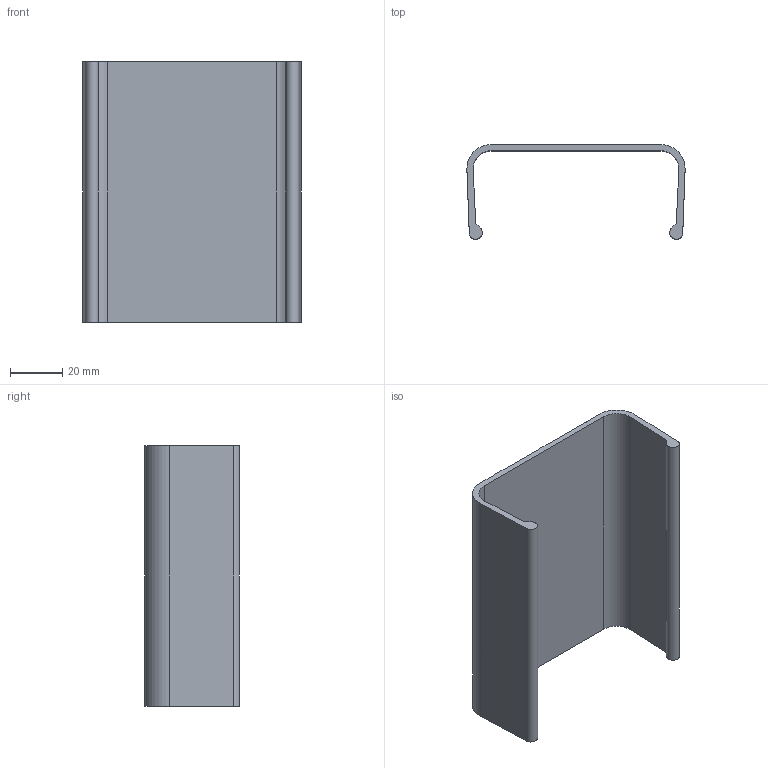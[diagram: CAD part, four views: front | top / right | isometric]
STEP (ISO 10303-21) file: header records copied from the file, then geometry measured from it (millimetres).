
FILE_DESCRIPTION(('Creo Elements/Direct Modeling STEP Export'),'2;1');
FILE_NAME('PZM.6.stp','2016-12-15T11:06:58',(''),(''),'PTC Creo Elements/Direct Modeling STEP processor for AP214 (Solid Model)','PTC Creo Elements/Direct Modeling 19.0E 27-Jun-2016 (C) Parametric Technology GmbH','');
FILE_SCHEMA(('AUTOMOTIVE_DESIGN { 1 0 10303 214 1 1 1 1 }'));
Length unit declared in the file: millimetre
Products named in the file (2): PZM.6
Assembly tree (1 placements, depth 2):
  PZM.6
    PZM.6
Bounding box: 83.79 x 36.4 x 100 mm (x, y, z)
Volume: 37201.8 mm3; surface area: 30512.5 mm2
Topology: 1 solids, 1 shells, 25 faces, 69 edges, 46 vertices
Faces by surface type: plane 19, cylinder 6
Entity records: 801 total; most frequent: ORIENTED_EDGE 138, CARTESIAN_POINT 133, DIRECTION 123, EDGE_CURVE 69, VECTOR 51, LINE 51, VERTEX_POINT 46, AXIS2_PLACEMENT_3D 36
